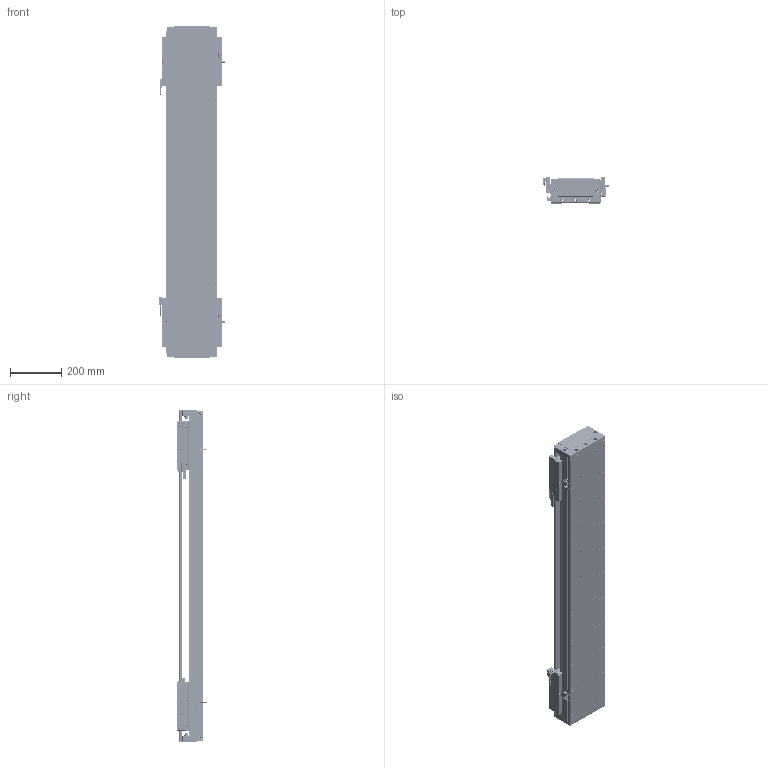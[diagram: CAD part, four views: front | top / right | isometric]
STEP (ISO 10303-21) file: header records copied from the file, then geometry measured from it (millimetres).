
FILE_DESCRIPTION (( 'STEP AP203' ), '1' );
FILE_NAME ('DA-C195-2-C2-T800-C010-0.2 眻盄萇儂.STEP', '2025-08-14T01:59:15', ( '' ), ( '' ), 'SwSTEP 2.0', 'SolidWorks 2019', '' );
FILE_SCHEMA (( 'CONFIG_CONTROL_DESIGN' ));
Length unit declared in the file: millimetre
Products named in the file (16): 66156-0001-003-00 裔啣; 66156-0001-005-00 光电感应片(默认); DA95-HXJ-00 遣喳砎蝶; LMT黍杅芛; MS200 棠掑喜S315-T240; DA-C195-2-C2-T800-C010-0.2 眻盄萇儂; CU195-C2賑輸-俋楷; PM-Y65嫖萇羲壽郪璃; DKW-KGZ-ZJ-00 中间光电开关支架; 葩璃 DA95-GT-T-00; IU-CU195-L-00 菁釱(L1260); DKW-GYP-ZJ-00 笢潔嫖萇覜茼え; PM-T45ㄗ侂狟ㄘ; DKW168-HXJ-ZJ-00 笢潔滅袉砎蝶; IU-CU195-L 菁釱絳寢; DA195-DG-H-00  端盖（压铸镂空版）
Assembly tree (28 placements, depth 3):
  DA-C195-2-C2-T800-C010-0.2 眻盄萇儂
    IU-CU195-L 菁釱絳寢
      IU-CU195-L-00 菁釱(L1260)
      葩璃 DA95-GT-T-00  x4
    LMT黍杅芛  x2
    MS200 棠掑喜S315-T240
    PM-T45ㄗ侂狟ㄘ  x4
    66156-0001-005-00 光电感应片(默认)  x2
    DA195-DG-H-00  端盖（压铸镂空版）  x2
    DA95-HXJ-00 遣喳砎蝶  x4
    PM-Y65嫖萇羲壽郪璃
    66156-0001-003-00 裔啣
    DKW168-HXJ-ZJ-00 笢潔滅袉砎蝶
    DKW-GYP-ZJ-00 笢潔嫖萇覜茼え
    DKW-KGZ-ZJ-00 中间光电开关支架
    CU195-C2賑輸-俋楷  x2
Bounding box: 258.2 x 115.6 x 1300 mm (x, y, z)
Volume: 10203876.5 mm3; surface area: 2844794.3 mm2
Topology: 106 solids, 242 shells, 7928 faces, 19968 edges, 12147 vertices
Faces by surface type: cylinder 3250, plane 2862, cone 946, bspline 718, torus 80, sphere 72
Entity records: 158629 total; most frequent: CARTESIAN_POINT 48740, ORIENTED_EDGE 22938, DIRECTION 21826, EDGE_CURVE 11469, AXIS2_PLACEMENT_3D 7967, VERTEX_POINT 7262, LINE 5892, VECTOR 5892
